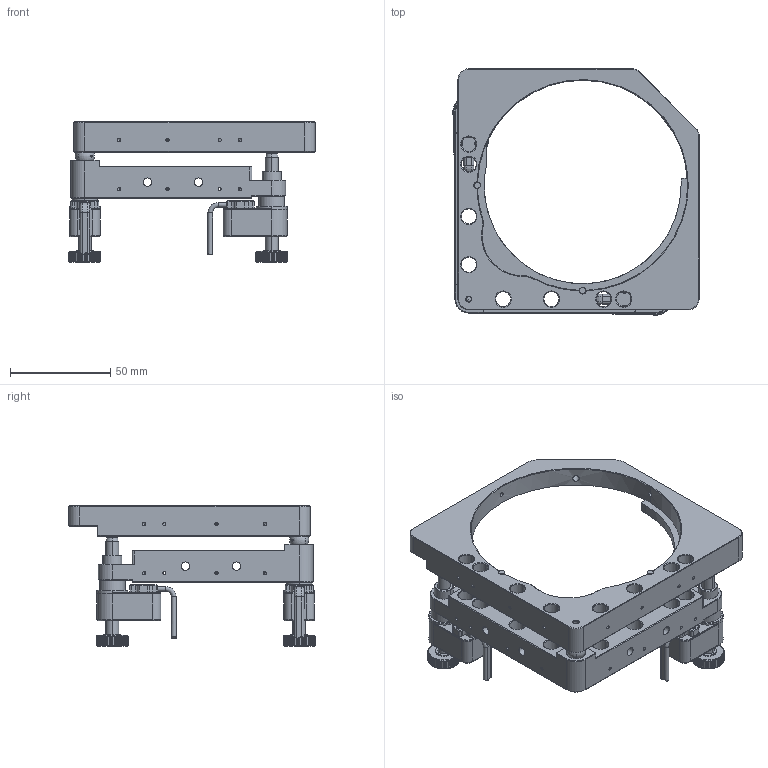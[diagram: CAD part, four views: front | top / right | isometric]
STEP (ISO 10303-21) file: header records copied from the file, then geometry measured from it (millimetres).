
FILE_DESCRIPTION (( 'STEP AP203' ), '1' );
FILE_NAME ('唅蛌鎮湛蚾饜极-1.STEP', '2021-09-07T03:03:29', ( '' ), ( '' ), 'SwSTEP 2.0', 'SolidWorks 2016', '' );
FILE_SCHEMA (( 'CONFIG_CONTROL_DESIGN' ));
Length unit declared in the file: millimetre
Products named in the file (1): 唅蛌鎮湛蚾饜极-1
Bounding box: 122.54 x 122.54 x 69.72 mm (x, y, z)
Volume: 127278.5 mm3; surface area: 60752 mm2
Topology: 30 solids, 30 shells, 1570 faces, 3954 edges, 2426 vertices
Faces by surface type: cylinder 618, plane 590, cone 328, torus 30, bspline 2, sphere 2
Entity records: 51756 total; most frequent: CARTESIAN_POINT 14591, ORIENTED_EDGE 7766, DIRECTION 7653, EDGE_CURVE 3883, AXIS2_PLACEMENT_3D 2889, VERTEX_POINT 2425, LINE 1875, VECTOR 1875
